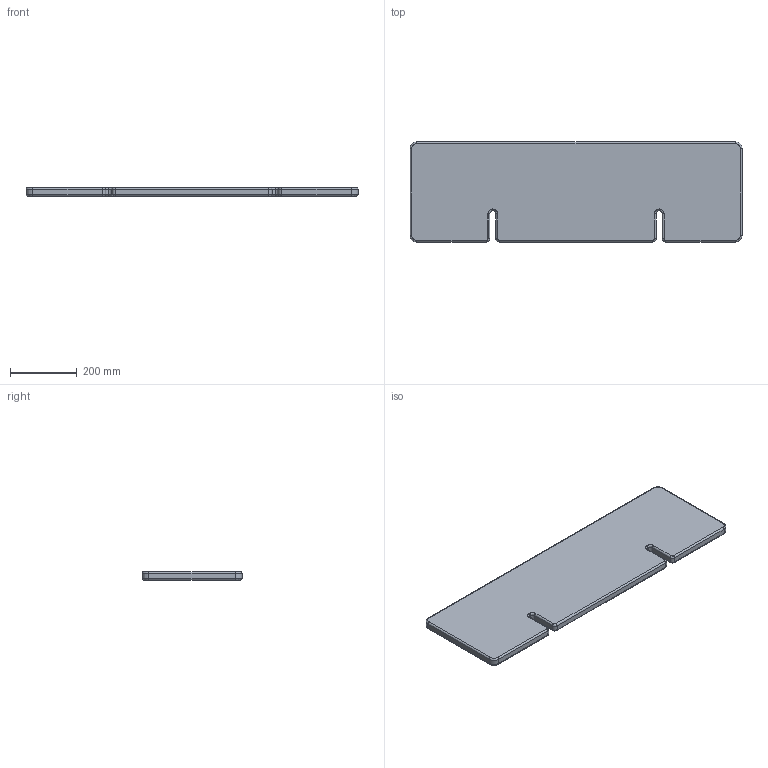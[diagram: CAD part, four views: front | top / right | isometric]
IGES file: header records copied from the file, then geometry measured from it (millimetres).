
Start section: Missler Software 3 rue Hermes, EUROPARC, 31520 Ramonville-Saint-Agne, France Tel   : +33 (0)5 61 00 03 00 Fax   : +33 (0)5 61 00 03 03 Email : sup.solid@topsolid.com
Global section: file name: G:\Dossier RNR\Rendu final\Conception etagere rapportée\Etagere brute\Tablette.igs; native system: TopSolid v613200 Missler Software; preprocessor: IGES preprocessor v100000; author: laurent.derue; date: 130608.083618; units: millimetre
Bounding box: 996 x 300 x 25 mm (x, y, z)
Surface area: 649862.7 mm2 (no closed solid volume)
Topology: 0 solids, 0 shells, 68 faces, 444 edges, 444 vertices
Faces by surface type: bspline 68
